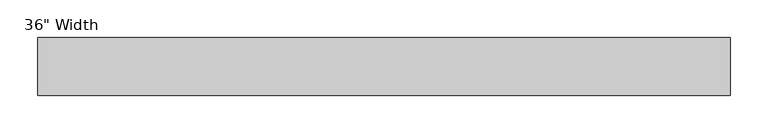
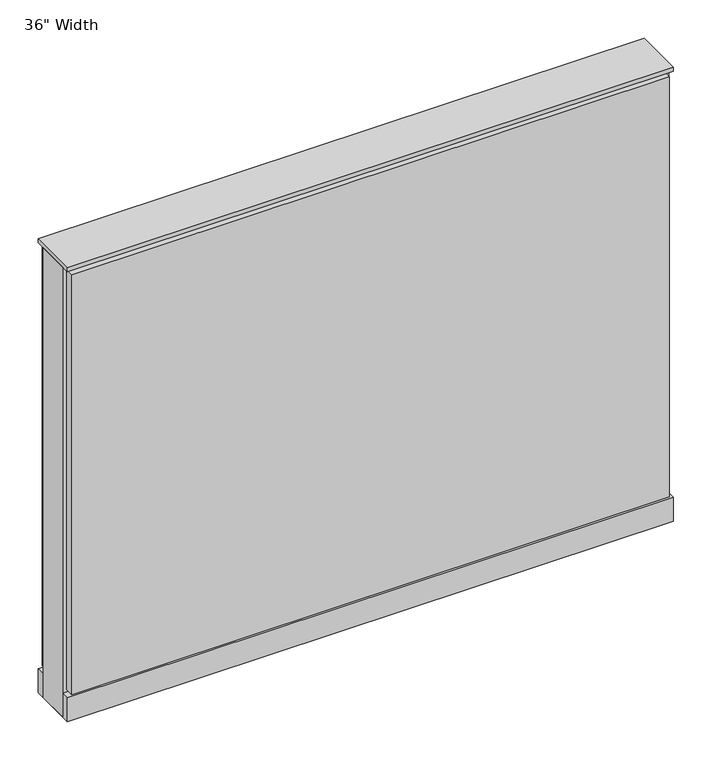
"""IFC4 building model written with IfcOpenShell, lengths in millimetres: furniture geometry."""

from ifc_helpers import new_model, si_unit, point, frame, frame_2d, origin, origin_with_axes, place, context, project, spatial, polyline, circle_curve, trimmed, segment, composite_curve, outline, extrude, source, transform, mapped, element, save


def furniture_dfdae043(model_context):
    return source(origin(), model_context, "Body", "SweptSolid", [
        extrude(outline(composite_curve([segment(trimmed(circle_curve(frame_2d((383.4402902, 0.0)), 12.7), [point((370.7402902, 0.0))], [point((396.1402902, 0.0))], False, "CARTESIAN"), True, "CONTINUOUS"), segment(trimmed(circle_curve(frame_2d((383.4402902, 0.0)), 12.7), [point((396.1402902, 0.0))], [point((370.7402902, 0.0))], False, "CARTESIAN"), True, "CONTINUOUS")], self_intersect=False)), origin_with_axes(), (0.0, 0.0, 1.0), 12.7),
        extrude(outline(composite_curve([segment(trimmed(circle_curve(frame_2d((-378.5597098, 0.0)), 12.7), [point((-391.2597098, 0.0))], [point((-365.8597098, 0.0))], False, "CARTESIAN"), True, "CONTINUOUS"), segment(trimmed(circle_curve(frame_2d((-378.5597098, 0.0)), 12.7), [point((-365.8597098, 0.0))], [point((-391.2597098, 0.0))], False, "CARTESIAN"), True, "CONTINUOUS")], self_intersect=False)), origin_with_axes(), (0.0, 0.0, 1.0), 12.7),
        extrude(outline(polyline([(453.2902902, -38.1), (-448.4097098, -38.1), (-448.4097098, -25.4), (453.2902902, -25.4), (453.2902902, -38.1)])), frame((0.0, 0.0, 53.975), z_axis=(0.0, 0.0, 1.0), x_axis=(1.0, 0.0, 0.0)), (0.0, 0.0, 1.0), 669.925),
        extrude(outline(polyline([(453.2902902, 38.1), (453.2902902, 25.4), (-448.4097098, 25.4), (-448.4097098, 38.1), (453.2902902, 38.1)])), frame((0.0, 0.0, 53.975), z_axis=(0.0, 0.0, 1.0), x_axis=(1.0, 0.0, 0.0)), (0.0, 0.0, 1.0), 669.925),
        extrude(outline(polyline([(459.6402902, -25.4), (-454.7597098, -25.4), (-454.7597098, 25.4), (459.6402902, 25.4), (459.6402902, -25.4)])), frame((0.0, 0.0, 12.7), z_axis=(0.0, 0.0, 1.0), x_axis=(1.0, 0.0, 0.0)), (0.0, 0.0, 1.0), 717.55),
        extrude(outline(polyline([(-454.7597098, 38.1), (459.6402902, 38.1), (459.6402902, -38.1), (-454.7597098, -38.1), (-454.7597098, 38.1)])), frame((0.0, 0.0, 12.7), z_axis=(0.0, 0.0, 1.0), x_axis=(1.0, 0.0, 0.0)), (0.0, 0.0, 1.0), 38.1),
        extrude(outline(polyline([(-454.7597098, 38.1), (459.6402902, 38.1), (459.6402902, -38.1), (-454.7597098, -38.1), (-454.7597098, 38.1)])), frame((0.0, 0.0, 730.25), z_axis=(0.0, 0.0, 1.0), x_axis=(1.0, 0.0, 0.0)), (0.0, 0.0, 1.0), 6.35),
    ])


if __name__ == "__main__":
    model = new_model("IFC4")
    model_context = context("Model", 3, world=origin())
    ifc_project = project(units=[si_unit("LENGTHUNIT", "METRE", prefix="MILLI")], contexts=[model_context])
    site = spatial("IfcSite", under=ifc_project)
    building = spatial("IfcBuilding", under=site)
    placement = place(None, origin())
    furniture_shape = furniture_dfdae043(model_context)
    element("IfcFurniture", 1, ObjectType="Haworth_Compose-Panel-Benching : 36\" Width", at=placement, inside=building, context=model_context, shape_type="MappedRepresentation", body=[
        mapped(furniture_shape, transform((0.0, 0.0, 0.0), x_axis=(1.0, 0.0, 0.0), y_axis=(0.0, 1.0, 0.0), z_axis=(0.0, 0.0, 1.0))),
    ])
    save(model, "model.ifc")
